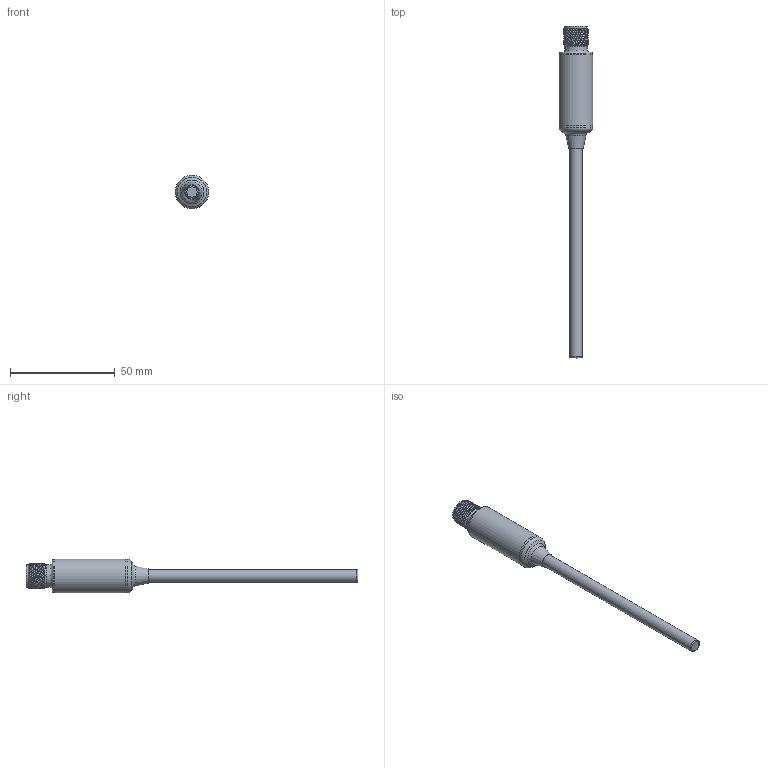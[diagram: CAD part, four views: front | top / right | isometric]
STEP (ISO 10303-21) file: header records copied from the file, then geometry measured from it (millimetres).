
FILE_DESCRIPTION((''),'2;1');
FILE_NAME('K:\Comune\Vol1\Disegni\INVENTOR\Progetti in 3D\EVOMINI+ IO-LINK TURCK\H017041\9910660.stp','2013-10-24T17:59:06',('michele.miglioli'),(''),'Autodesk Inventor 2010','Autodesk Inventor 2010','');
FILE_SCHEMA(('AUTOMOTIVE_DESIGN { 1 0 10303 214 1 1 1 1 }'));
Length unit declared in the file: millimetre
Products named in the file (9): 9910660; Basetta a 4 contatti per M12 maschio; Fondello per connettore M12; Isolatore M12 maschio completo; Isolatore maschio per M12; Contatto maschio; Tubo Ø16mm; Riduzione per corpo esterno; Tubo Ø6mm per 9910660
Assembly tree (11 placements, depth 4):
  9910660
    Basetta a 4 contatti per M12 maschio
      Fondello per connettore M12
      Isolatore M12 maschio completo
        Isolatore maschio per M12
        Contatto maschio  x4
    Tubo Ø16mm
    Riduzione per corpo esterno
    Tubo Ø6mm per 9910660
Bounding box: 16 x 158.5 x 16 mm (x, y, z)
Volume: 4002.6 mm3; surface area: 10599.1 mm2
Topology: 9 solids, 9 shells, 216 faces, 526 edges, 337 vertices
Faces by surface type: plane 85, cylinder 57, bspline 38, cone 17, torus 11, sphere 8
Full cylindrical faces by diameter (mm): 1 x8, 1.3 x5, 5 x1, 5.5 x1, 6 x1, 6.1 x1, 9.7 x1, 10.7 x1, 14.9 x2, 15 x1, 16 x3
Entity records: 8327 total; most frequent: CARTESIAN_POINT 3834, ORIENTED_EDGE 842, DIRECTION 837, EDGE_CURVE 421, AXIS2_PLACEMENT_3D 313, VERTEX_POINT 293, EDGE_LOOP 264, VECTOR 211
